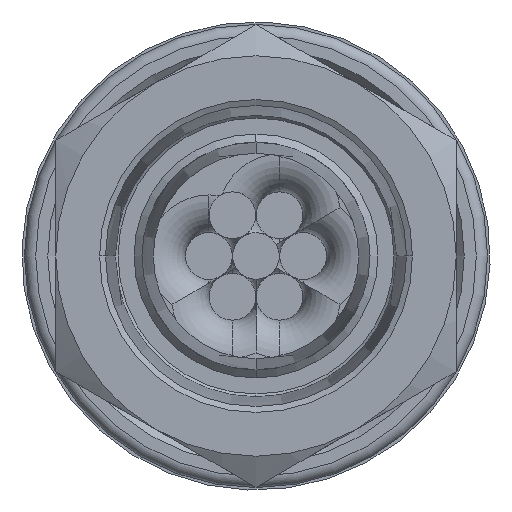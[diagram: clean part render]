
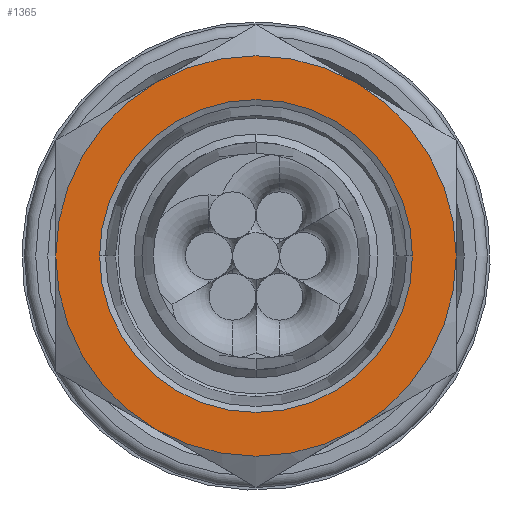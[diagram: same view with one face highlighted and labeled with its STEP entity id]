
A CAD part, front view. The second image highlights one B-rep face of the part: STEP entity #1365.
In plain terms, the highlighted planar face has unit normal (0, -1, 0).
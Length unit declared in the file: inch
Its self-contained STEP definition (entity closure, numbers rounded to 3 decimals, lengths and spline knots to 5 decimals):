
#78 = DIRECTION ( 'NONE',  ( -1., 0., 0. ) ) ;
#215 = DIRECTION ( 'NONE',  ( 0., -1., 0. ) ) ;
#267 = DIRECTION ( 'NONE',  ( -1., 0., 0. ) ) ;
#287 = CIRCLE ( 'NONE', #3786, 0.53125 ) ;
#308 = DIRECTION ( 'NONE',  ( 0., -1., 0. ) ) ;
#350 = AXIS2_PLACEMENT_3D ( 'NONE', #2253, #1554, #78 ) ;
#359 = CARTESIAN_POINT ( 'NONE',  ( 0.26563, -0.6475, -0.46008 ) ) ;
#402 = CARTESIAN_POINT ( 'NONE',  ( -0.53125, -0.6475, 0. ) ) ;
#437 = ORIENTED_EDGE ( 'NONE', *, *, #4282, .T. ) ;
#510 = CIRCLE ( 'NONE', #350, 0.53125 ) ;
#800 = AXIS2_PLACEMENT_3D ( 'NONE', #3390, #308, #967 ) ;
#946 = VERTEX_POINT ( 'NONE', #963 ) ;
#963 = CARTESIAN_POINT ( 'NONE',  ( 0.53125, -0.6475, 0. ) ) ;
#967 = DIRECTION ( 'NONE',  ( -1., 0., 0. ) ) ;
#979 = EDGE_CURVE ( 'NONE', #2279, #3801, #2350, .T. ) ;
#980 = CARTESIAN_POINT ( 'NONE',  ( 0.26563, -0.6475, 0.46008 ) ) ;
#1024 = CIRCLE ( 'NONE', #2074, 0.53125 ) ;
#1177 = CIRCLE ( 'NONE', #2628, 0.53125 ) ;
#1255 = EDGE_CURVE ( 'NONE', #946, #2363, #1177, .T. ) ;
#1298 = VERTEX_POINT ( 'NONE', #1997 ) ;
#1365 = ADVANCED_FACE ( 'NONE', ( #2745, #3430 ), #3026, .T. ) ;
#1395 = DIRECTION ( 'NONE',  ( -1., 0., 0. ) ) ;
#1494 = AXIS2_PLACEMENT_3D ( 'NONE', #1738, #3425, #3120 ) ;
#1554 = DIRECTION ( 'NONE',  ( 0., -1., 0. ) ) ;
#1589 = DIRECTION ( 'NONE',  ( 0., -1., 0. ) ) ;
#1738 = CARTESIAN_POINT ( 'NONE',  ( 0., -0.6475, 0. ) ) ;
#1779 = EDGE_LOOP ( 'NONE', ( #4108, #2466 ) ) ;
#1834 = DIRECTION ( 'NONE',  ( 0., -1., 0. ) ) ;
#1859 = VERTEX_POINT ( 'NONE', #3850 ) ;
#1971 = ORIENTED_EDGE ( 'NONE', *, *, #3277, .T. ) ;
#1997 = CARTESIAN_POINT ( 'NONE',  ( -0.26562, -0.6475, 0.46008 ) ) ;
#2064 = VERTEX_POINT ( 'NONE', #359 ) ;
#2074 = AXIS2_PLACEMENT_3D ( 'NONE', #3562, #1834, #2871 ) ;
#2098 = VERTEX_POINT ( 'NONE', #402 ) ;
#2253 = CARTESIAN_POINT ( 'NONE',  ( 0., -0.6475, 0. ) ) ;
#2279 = VERTEX_POINT ( 'NONE', #4408 ) ;
#2288 = DIRECTION ( 'NONE',  ( 0., -1., 0. ) ) ;
#2321 = ORIENTED_EDGE ( 'NONE', *, *, #4368, .T. ) ;
#2350 = CIRCLE ( 'NONE', #4148, 0.415 ) ;
#2363 = VERTEX_POINT ( 'NONE', #980 ) ;
#2373 = ORIENTED_EDGE ( 'NONE', *, *, #4437, .T. ) ;
#2466 = ORIENTED_EDGE ( 'NONE', *, *, #2876, .F. ) ;
#2498 = CARTESIAN_POINT ( 'NONE',  ( 0., -0.6475, 0. ) ) ;
#2626 = DIRECTION ( 'NONE',  ( -1., 0., 0. ) ) ;
#2628 = AXIS2_PLACEMENT_3D ( 'NONE', #3247, #1589, #2626 ) ;
#2745 = FACE_BOUND ( 'NONE', #1779, .T. ) ;
#2829 = ORIENTED_EDGE ( 'NONE', *, *, #1255, .T. ) ;
#2871 = DIRECTION ( 'NONE',  ( -1., 0., 0. ) ) ;
#2876 = EDGE_CURVE ( 'NONE', #3801, #2279, #3689, .T. ) ;
#3021 = CARTESIAN_POINT ( 'NONE',  ( 0., -0.6475, 0. ) ) ;
#3026 = PLANE ( 'NONE',  #800 ) ;
#3048 = AXIS2_PLACEMENT_3D ( 'NONE', #3359, #215, #3694 ) ;
#3120 = DIRECTION ( 'NONE',  ( -1., 0., 0. ) ) ;
#3217 = DIRECTION ( 'NONE',  ( 0., -1., 0. ) ) ;
#3247 = CARTESIAN_POINT ( 'NONE',  ( 0., -0.6475, 0. ) ) ;
#3277 = EDGE_CURVE ( 'NONE', #2098, #1859, #1024, .T. ) ;
#3359 = CARTESIAN_POINT ( 'NONE',  ( 0., -0.6475, 0. ) ) ;
#3390 = CARTESIAN_POINT ( 'NONE',  ( 0.53125, -0.6475, -0.92015 ) ) ;
#3425 = DIRECTION ( 'NONE',  ( 0., -1., 0. ) ) ;
#3430 = FACE_OUTER_BOUND ( 'NONE', #4463, .T. ) ;
#3506 = DIRECTION ( 'NONE',  ( 0., -1., 0. ) ) ;
#3562 = CARTESIAN_POINT ( 'NONE',  ( 0., -0.6475, 0. ) ) ;
#3563 = CIRCLE ( 'NONE', #4081, 0.53125 ) ;
#3567 = DIRECTION ( 'NONE',  ( -1., 0., 0. ) ) ;
#3689 = CIRCLE ( 'NONE', #1494, 0.415 ) ;
#3694 = DIRECTION ( 'NONE',  ( -1., 0., 0. ) ) ;
#3786 = AXIS2_PLACEMENT_3D ( 'NONE', #4473, #3506, #1395 ) ;
#3801 = VERTEX_POINT ( 'NONE', #3955 ) ;
#3850 = CARTESIAN_POINT ( 'NONE',  ( -0.26562, -0.6475, -0.46008 ) ) ;
#3955 = CARTESIAN_POINT ( 'NONE',  ( 0.415, -0.6475, 0. ) ) ;
#4003 = ORIENTED_EDGE ( 'NONE', *, *, #4260, .T. ) ;
#4081 = AXIS2_PLACEMENT_3D ( 'NONE', #2498, #3217, #3567 ) ;
#4108 = ORIENTED_EDGE ( 'NONE', *, *, #979, .F. ) ;
#4148 = AXIS2_PLACEMENT_3D ( 'NONE', #3021, #2288, #267 ) ;
#4260 = EDGE_CURVE ( 'NONE', #2363, #1298, #3563, .T. ) ;
#4282 = EDGE_CURVE ( 'NONE', #2064, #946, #510, .T. ) ;
#4367 = CIRCLE ( 'NONE', #3048, 0.53125 ) ;
#4368 = EDGE_CURVE ( 'NONE', #1859, #2064, #4367, .T. ) ;
#4408 = CARTESIAN_POINT ( 'NONE',  ( -0.415, -0.6475, 0. ) ) ;
#4437 = EDGE_CURVE ( 'NONE', #1298, #2098, #287, .T. ) ;
#4463 = EDGE_LOOP ( 'NONE', ( #2373, #1971, #2321, #437, #2829, #4003 ) ) ;
#4473 = CARTESIAN_POINT ( 'NONE',  ( 0., -0.6475, 0. ) ) ;
